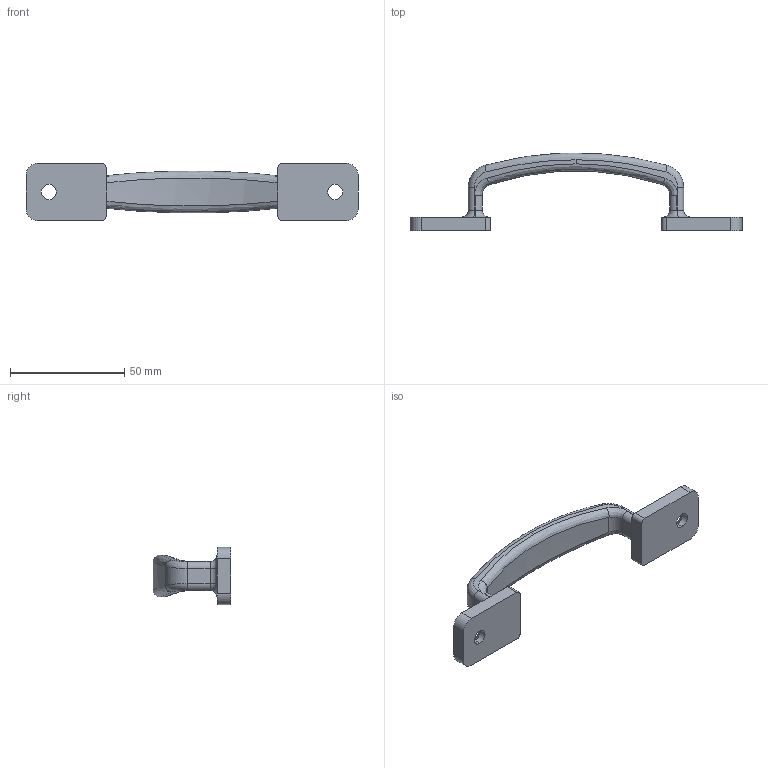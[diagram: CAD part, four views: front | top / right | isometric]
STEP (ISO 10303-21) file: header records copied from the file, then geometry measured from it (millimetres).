
FILE_DESCRIPTION (( 'STEP AP203' ), '1' );
FILE_NAME ('E10-20681.STEP', '2024-10-29T06:02:29', ( '' ), ( '' ), 'SwSTEP 2.0', 'SolidWorks 2021', '' );
FILE_SCHEMA (( 'CONFIG_CONTROL_DESIGN' ));
Length unit declared in the file: millimetre
Products named in the file (1): E10-20681
Bounding box: 145 x 33.91 x 25 mm (x, y, z)
Volume: 23277.3 mm3; surface area: 9615 mm2
Topology: 1 solids, 1 shells, 77 faces, 182 edges, 109 vertices
Faces by surface type: cylinder 35, plane 16, bspline 12, torus 10, cone 4
Entity records: 3140 total; most frequent: CARTESIAN_POINT 1323, DIRECTION 369, ORIENTED_EDGE 364, EDGE_CURVE 182, AXIS2_PLACEMENT_3D 147, VERTEX_POINT 109, EDGE_LOOP 83, CIRCLE 81
